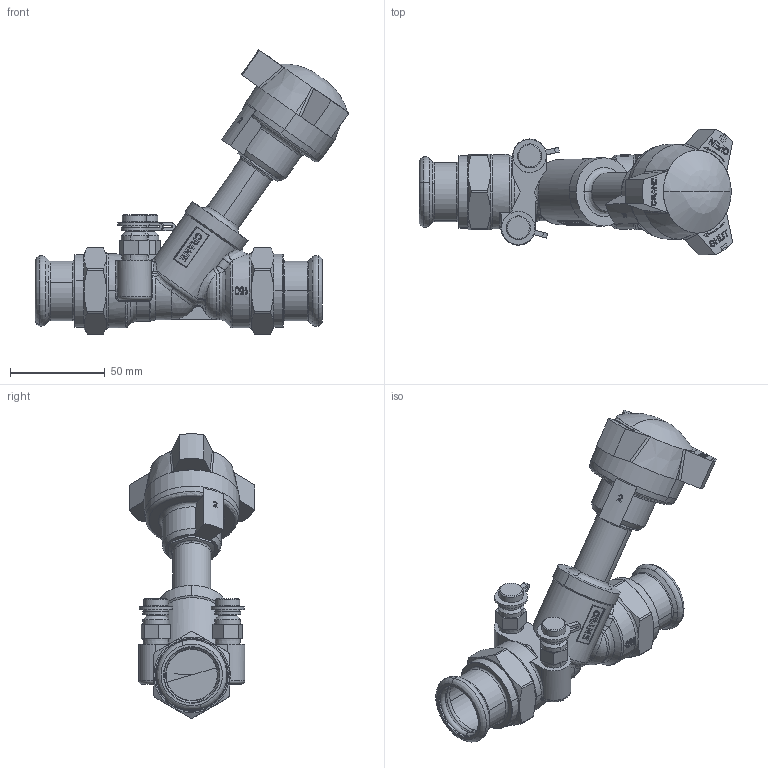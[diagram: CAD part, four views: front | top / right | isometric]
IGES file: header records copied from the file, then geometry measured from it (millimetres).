
Global section: file name: No Iges File Name specified; native system: AutoDesk Inventor R12.0; preprocessor: AutoDesk Inventor Iges Exporter R12.0; date: 20110824.110034; units: millimetre
Bounding box: 165.5 x 66.44 x 149.98 mm (x, y, z)
Volume: 250066.8 mm3; surface area: 51827.8 mm2
Topology: 1 solids, 3 shells, 909 faces, 2436 edges, 1590 vertices
Faces by surface type: bspline 350, plane 341, cylinder 98, cone 64, revolution 28, torus 26, sphere 2
